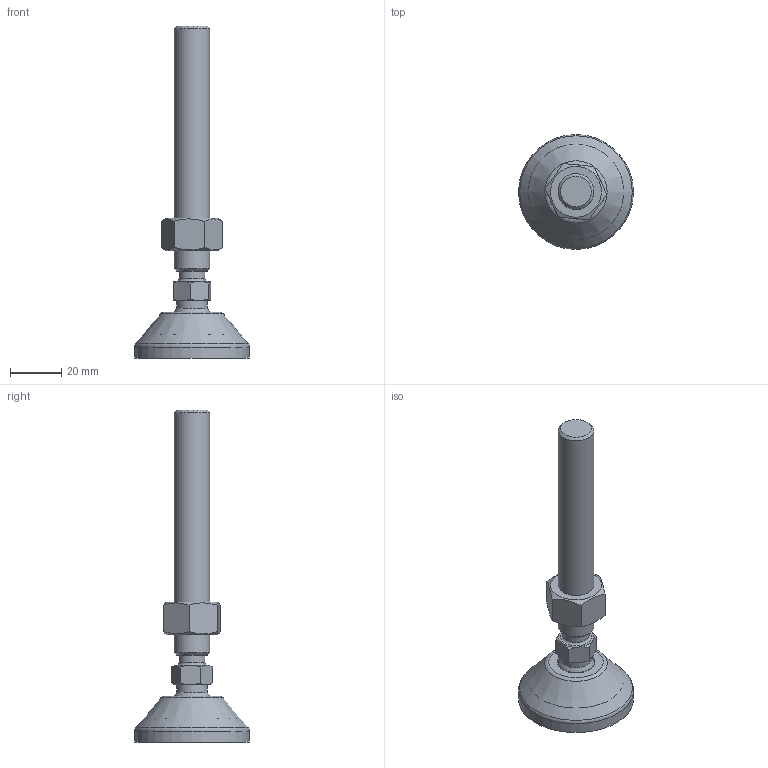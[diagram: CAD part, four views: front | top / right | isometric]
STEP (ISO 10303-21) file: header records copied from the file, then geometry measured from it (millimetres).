
FILE_DESCRIPTION(('STEP AP203'), '1');
FILE_NAME('栖闉罻', '', ('UNSPECIFIED'), ('UNSPECIFIED'), 'C3D Converter', 'C3D Toolkit', '');
FILE_SCHEMA(('CONFIG_CONTROL_DESIGN'));
Length unit declared in the file: millimetre
Products named in the file (4): A00015.1045; A00020.114100
Assembly tree (3 placements, depth 3):
  (unnamed)
    A00015.1045
    A00020.114100
      (unnamed)
Bounding box: 45 x 45 x 130 mm (x, y, z)
Volume: 33673.8 mm3; surface area: 14137.2 mm2
Topology: 3 solids, 3 shells, 141 faces, 380 edges, 250 vertices
Faces by surface type: plane 79, cylinder 26, cone 21, torus 13, sphere 2
Full cylindrical faces by diameter (mm): 10.2 x1, 11.835 x1, 12 x1, 14 x1, 14.3 x1, 15 x2, 15.5 x1, 37.3 x1, 45 x1
Entity records: 7819 total; most frequent: CARTESIAN_POINT 3055, DIRECTION 716, ORIENTED_EDGE 706, EDGE_CURVE 353, AXIS2_PLACEMENT_3D 288, VERTEX_POINT 249, EDGE_LOOP 174, FACE_BOUND 150
